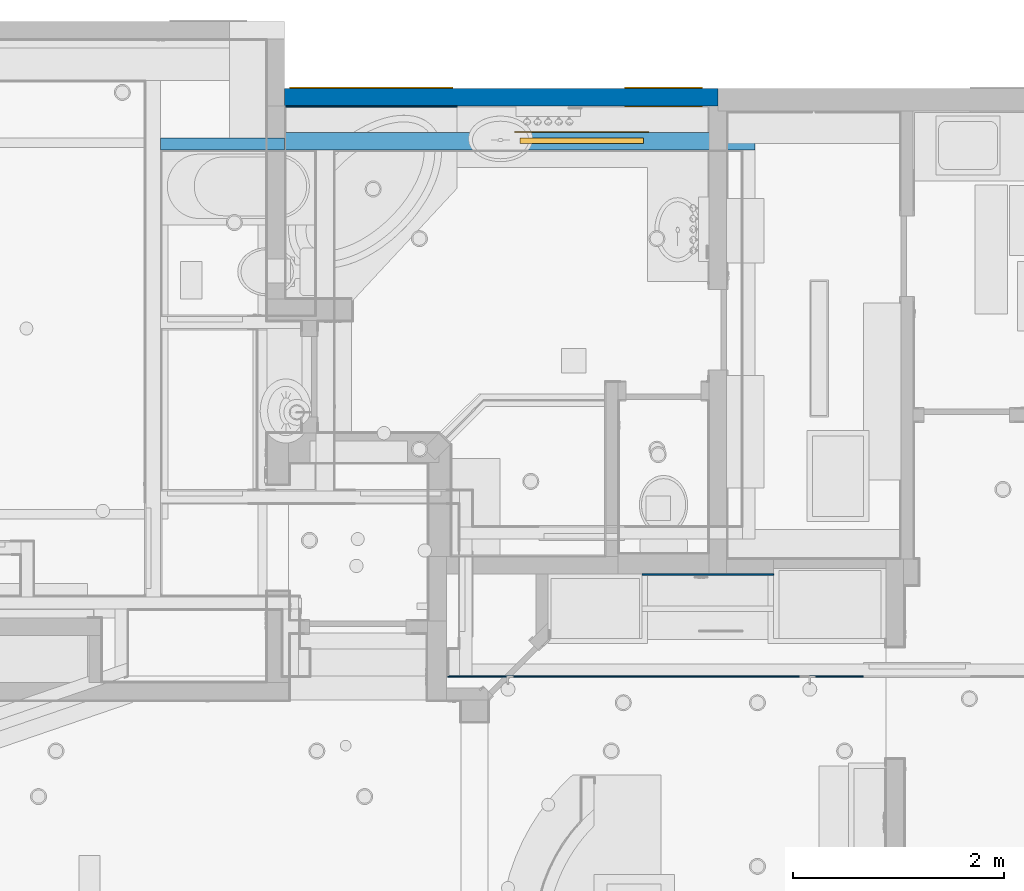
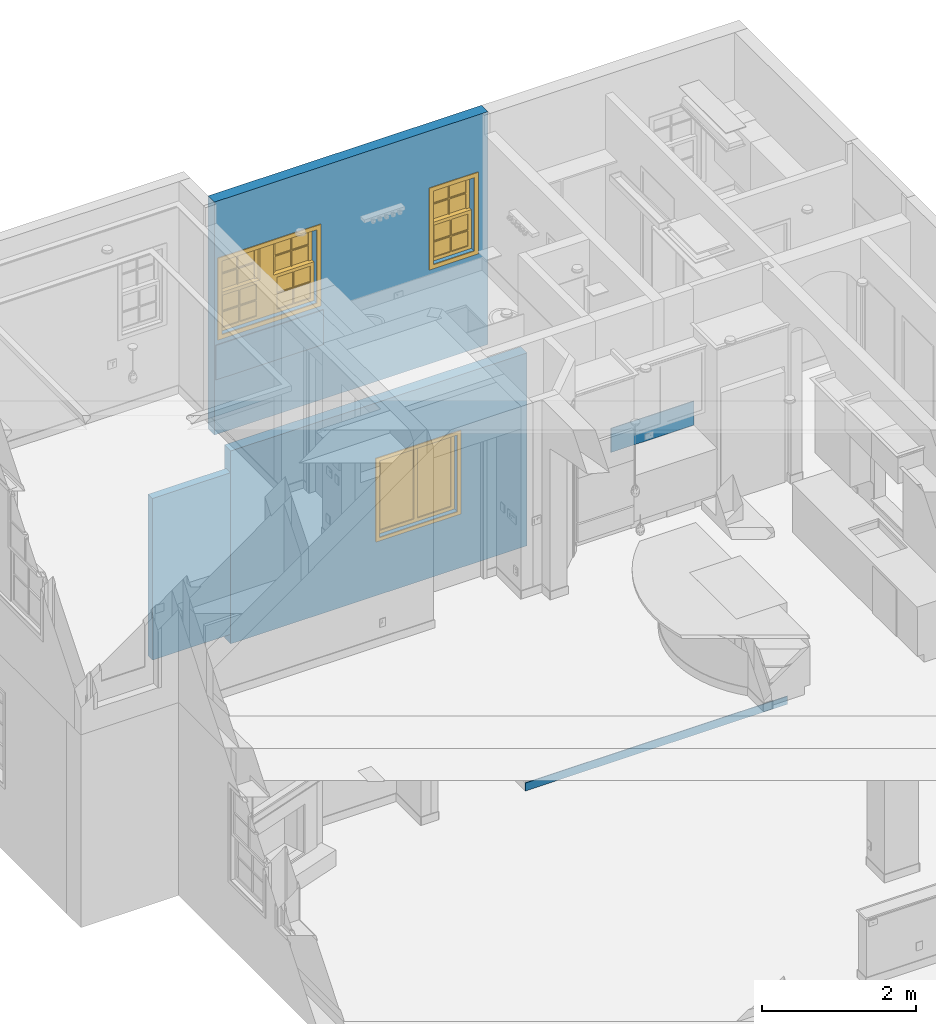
# One storey, part 12 of 81: 6 walls, 3 windows, 3 openings.
"""IFC2X3 building model written with IfcOpenShell, lengths in feet."""

from ifc_helpers import new_model, entity, si_unit, converted_unit, derived_unit, direction, frame, frame_2d, origin, origin_2d_with_axis, place, context, subcontext, project, spatial, polyline, rectangle, outline, extrude, source, transform, mapped, material, material_list, layer, layer_set, layer_usage, type_object, type_shapes, element, fill, save


model = new_model("IFC2X3")

# Units and contexts
model_context = context("Model", 3, precision=0.0001, world=origin(), true_north=direction((6.12303176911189e-17, 1.0)))
body_context = subcontext(model_context, "Body", "Model", "MODEL_VIEW")
ifc_project = project(units=[converted_unit("LENGTHUNIT", "FOOT", entity("IfcRatioMeasure", 0.3048), si_unit("LENGTHUNIT", "METRE"), dimensions=[1, 0, 0, 0, 0, 0, 0]), converted_unit("AREAUNIT", "SQUARE FOOT", entity("IfcRatioMeasure", 0.09290304), si_unit("AREAUNIT", "SQUARE_METRE"), dimensions=[2, 0, 0, 0, 0, 0, 0]), converted_unit("VOLUMEUNIT", "CUBIC FOOT", entity("IfcRatioMeasure", 0.028316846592), si_unit("VOLUMEUNIT", "CUBIC_METRE"), dimensions=[3, 0, 0, 0, 0, 0, 0]), converted_unit("PLANEANGLEUNIT", "DEGREE", entity("IfcRatioMeasure", 0.0174532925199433), si_unit("PLANEANGLEUNIT", "RADIAN"), dimensions=[0, 0, 0, 0, 0, 0, 0]), si_unit("MASSUNIT", "GRAM", prefix="KILO"), derived_unit("MASSDENSITYUNIT", [(si_unit("MASSUNIT", "GRAM", prefix="KILO"), 1), (si_unit("LENGTHUNIT", "METRE"), -3)]), derived_unit("MOMENTOFINERTIAUNIT", [(si_unit("LENGTHUNIT", "METRE"), 4)]), si_unit("TIMEUNIT", "SECOND"), si_unit("FREQUENCYUNIT", "HERTZ"), si_unit("THERMODYNAMICTEMPERATUREUNIT", "DEGREE_CELSIUS"), derived_unit("THERMALTRANSMITTANCEUNIT", [(si_unit("MASSUNIT", "GRAM", prefix="KILO"), 1), (si_unit("THERMODYNAMICTEMPERATUREUNIT", "KELVIN"), -1), (si_unit("TIMEUNIT", "SECOND"), -3)]), derived_unit("VOLUMETRICFLOWRATEUNIT", [(si_unit("LENGTHUNIT", "METRE"), 3), (si_unit("TIMEUNIT", "SECOND"), -1)]), si_unit("ELECTRICCURRENTUNIT", "AMPERE"), si_unit("ELECTRICVOLTAGEUNIT", "VOLT"), si_unit("POWERUNIT", "WATT"), si_unit("FORCEUNIT", "NEWTON"), si_unit("ILLUMINANCEUNIT", "LUX"), si_unit("LUMINOUSFLUXUNIT", "LUMEN"), si_unit("LUMINOUSINTENSITYUNIT", "CANDELA"), derived_unit("USERDEFINED", [(si_unit("MASSUNIT", "GRAM", prefix="KILO"), -1), (si_unit("LENGTHUNIT", "METRE"), -2), (si_unit("TIMEUNIT", "SECOND"), 3), (si_unit("LUMINOUSFLUXUNIT", "LUMEN"), 1)]), derived_unit("LINEARVELOCITYUNIT", [(si_unit("LENGTHUNIT", "METRE"), 1), (si_unit("TIMEUNIT", "SECOND"), -1)]), si_unit("PRESSUREUNIT", "PASCAL"), derived_unit("USERDEFINED", [(si_unit("LENGTHUNIT", "METRE"), -2), (si_unit("MASSUNIT", "GRAM", prefix="KILO"), 1), (si_unit("TIMEUNIT", "SECOND"), -2)]), derived_unit("LINEARFORCEUNIT", [(si_unit("MASSUNIT", "GRAM", prefix="KILO"), 1), (si_unit("LENGTHUNIT", "METRE"), 1), (si_unit("TIMEUNIT", "SECOND"), -2), (si_unit("LENGTHUNIT", "METRE"), -1)]), derived_unit("PLANARFORCEUNIT", [(si_unit("MASSUNIT", "GRAM", prefix="KILO"), 1), (si_unit("LENGTHUNIT", "METRE"), 1), (si_unit("TIMEUNIT", "SECOND"), -2), (si_unit("LENGTHUNIT", "METRE"), -2)])], contexts=[model_context])

# Site, building, storey
site_placement = place(None, origin())
site = spatial("IfcSite", under=ifc_project, at=site_placement, Name="Default", CompositionType="ELEMENT")
building_placement = place(site_placement, origin())
building = spatial("IfcBuilding", under=site, at=building_placement, CompositionType="ELEMENT")
storey_placement = place(building_placement, origin())
storey = spatial("IfcBuildingStorey", under=building, at=storey_placement, Name="First floor", CompositionType="ELEMENT", Elevation=0.0)

# Wall, openings, windows
ifc_material_1 = material(Name="Default New Material")
ifc_layer_1 = layer(ifc_material_1, 0.541666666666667)
ifc_layer_set_1 = layer_set([ifc_layer_1], Name="Basic Wall:Wall_6.5\"")
ifc_layer_usage_1 = layer_usage(ifc_layer_set_1, "AXIS2", "NEGATIVE", 0.270833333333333)
wall_type_1 = type_object("IfcWallType", Name="Basic Wall:Wall_6.5\"", PredefinedType="STANDARD", material=ifc_layer_set_1)
wall_1_placement = place(storey_placement, frame((-5.77083333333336, 47.7704881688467, 9.54166666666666)))
wall_1 = element("IfcWallStandardCase", 1, at=wall_1_placement, inside=storey, type_object=wall_type_1, material=ifc_layer_usage_1, Name="Basic Wall:Wall_6.5\"", ObjectType="Basic Wall:Wall_6.5\"", context=body_context, shape_type="SweptSolid", body=[
    extrude(rectangle(XDim=13.4583333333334, YDim=0.541666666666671, at=frame_2d((6.72916666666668, 4.44089209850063e-16), x_axis=(-1.0, 0.0))), origin(), (0.0, 0.0, 1.0), 12.125),
])
opening_1_placement = place(wall_1_placement, frame((10.7708333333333, -0.270833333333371, 5.125)))
opening_1 = element("IfcOpeningElement", 2, at=opening_1_placement, cuts=wall_1, Name="Window_4:2'-0\" X 3'-10\":1", ObjectType="Opening", context=body_context, shape_type="SweptSolid", body=[
    extrude(rectangle(XDim=3.83333333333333, YDim=2.0, at=frame_2d((1.91666666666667, 0.999999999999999), x_axis=(-1.0, 0.0))), frame((0.0, 0.0, 0.0), z_axis=(0.0, 1.0, 0.0), x_axis=(0.0, 0.0, 1.0)), (0.0, 0.0, 1.0), 0.541666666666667),
])
opening_2_placement = place(wall_1_placement, frame((0.354166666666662, -0.270833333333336, 5.125)))
opening_2 = element("IfcOpeningElement", 3, at=opening_2_placement, cuts=wall_1, Name="Window_2:4'-8\" X 3'-10\":1", ObjectType="Opening", context=body_context, shape_type="SweptSolid", body=[
    extrude(rectangle(XDim=3.83333333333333, YDim=4.66666666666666, at=frame_2d((1.91666666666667, 2.33333333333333), x_axis=(-1.0, 0.0))), frame((0.0, 0.0, 0.0), z_axis=(0.0, 1.0, 0.0), x_axis=(0.0, 0.0, 1.0)), (0.0, 0.0, 1.0), 0.541666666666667),
])
ifc_material_2 = material(Name="Glass")
ifc_material_list_1 = material_list([ifc_material_2, ifc_material_1])
ifc_material_3 = material(Name="Trim")
ifc_material_4 = material(Name="Sash")
ifc_material_list_2 = material_list([ifc_material_3, ifc_material_3, ifc_material_2, ifc_material_4])
window_style_1 = type_object("IfcWindowStyle", Name="Window_4:2'-0\" X 3'-10\"", ConstructionType="NOTDEFINED", OperationType="NOTDEFINED", ParameterTakesPrecedence=False, Sizeable=False, material=ifc_material_list_2)
shared_shape_1 = source(origin(), body_context, "Body", "SweptSolid", [
    extrude(rectangle(XDim=0.80859375, YDim=0.0435871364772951, at=origin_2d_with_axis()), frame((0.570963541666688, 0.459293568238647, 2.8515625)), (0.0, 0.0, 1.0), 0.815104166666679),
    extrude(rectangle(XDim=0.808593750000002, YDim=0.0435871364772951, at=frame_2d((5.55111512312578e-17, 0.0), x_axis=(1.0, 0.0))), frame((1.42903645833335, 0.459293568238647, 2.8515625)), (0.0, 0.0, 1.0), 0.815104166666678),
    extrude(rectangle(XDim=0.80859375, YDim=0.0435871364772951, at=origin_2d_with_axis()), frame((0.570963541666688, 0.459293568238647, 2.01041666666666)), (0.0, 0.0, 1.0), 0.791666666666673),
    extrude(rectangle(XDim=0.808593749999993, YDim=0.0435871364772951, at=origin_2d_with_axis()), frame((1.42903645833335, 0.459293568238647, 2.01041666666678)), (0.0, 0.0, 1.0), 0.791666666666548),
    extrude(outline(polyline([(-1.0, -0.994791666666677), (1.0, -0.994791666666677), (1.0, 0.994791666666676), (-1.0, 0.994791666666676), (-1.0, -0.994791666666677)]), holes=[polyline([(0.0247395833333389, -0.828125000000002), (0.0247395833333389, -0.0130208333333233), (0.833333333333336, -0.0130208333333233), (0.833333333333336, -0.828125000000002), (0.0247395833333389, -0.828125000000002)]), polyline([(0.0247395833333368, 0.828125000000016), (0.833333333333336, 0.828125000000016), (0.833333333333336, 0.0364583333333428), (0.0247395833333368, 0.0364583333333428), (0.0247395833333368, 0.828125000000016)]), polyline([(-0.833333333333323, -0.0130208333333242), (-0.0247395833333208, -0.0130208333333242), (-0.0247395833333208, -0.828125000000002), (-0.833333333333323, -0.828125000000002), (-0.833333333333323, -0.0130208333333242)]), polyline([(-0.833333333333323, 0.828124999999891), (-0.0247395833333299, 0.828124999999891), (-0.0247395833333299, 0.0364583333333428), (-0.833333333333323, 0.0364583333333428), (-0.833333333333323, 0.828124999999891)])]), frame((1.0, 0.541666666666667, 2.83854166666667), z_axis=(0.0, -1.0, 0.0), x_axis=(-1.0, 0.0, 0.0)), (0.0, 0.0, 1.0), 0.166666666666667),
    extrude(rectangle(XDim=0.808593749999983, YDim=0.0416666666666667, at=origin_2d_with_axis()), frame((1.42903645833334, 0.291666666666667, 0.166666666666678), z_axis=(0.0, 0.0, 1.0), x_axis=(-1.0, 0.0, 0.0)), (0.0, 0.0, 1.0), 0.791666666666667),
    extrude(rectangle(XDim=0.80859374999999, YDim=0.0416666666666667, at=origin_2d_with_axis()), frame((0.570963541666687, 0.291666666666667, 1.00781250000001), z_axis=(0.0, 0.0, 1.0), x_axis=(-1.0, 0.0, 0.0)), (0.0, 0.0, 1.0), 0.835937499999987),
    extrude(rectangle(XDim=0.80859374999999, YDim=0.0416666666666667, at=origin_2d_with_axis()), frame((0.570963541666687, 0.291666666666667, 0.166666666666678), z_axis=(0.0, 0.0, 1.0), x_axis=(-1.0, 0.0, 0.0)), (0.0, 0.0, 1.0), 0.791666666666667),
    extrude(rectangle(XDim=0.808593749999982, YDim=0.0416666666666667, at=origin_2d_with_axis()), frame((1.42903645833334, 0.291666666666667, 1.00781250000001), z_axis=(0.0, 0.0, 1.0), x_axis=(-1.0, 0.0, 0.0)), (0.0, 0.0, 1.0), 0.835937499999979),
    extrude(outline(polyline([(-1.0, -1.00520833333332), (1.0, -1.00520833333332), (1.0, 1.00520833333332), (-1.0, 1.00520833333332), (-1.0, -1.00520833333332)]), holes=[polyline([(-0.833333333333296, -0.0026041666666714), (-0.0247395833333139, -0.0026041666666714), (-0.0247395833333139, -0.83854166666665), (-0.833333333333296, -0.83854166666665), (-0.833333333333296, -0.0026041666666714)]), polyline([(0.0247395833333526, 0.838541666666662), (0.833333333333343, 0.838541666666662), (0.833333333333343, 0.0468749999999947), (0.0247395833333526, 0.0468749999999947), (0.0247395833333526, 0.838541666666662)]), polyline([(-0.833333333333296, 0.838541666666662), (-0.0247395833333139, 0.838541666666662), (-0.0247395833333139, 0.0468749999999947), (-0.833333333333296, 0.0468749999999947), (-0.833333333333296, 0.838541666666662)]), polyline([(0.0247395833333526, -0.83854166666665), (0.0247395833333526, -0.00260416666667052), (0.833333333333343, -0.00260416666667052), (0.833333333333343, -0.83854166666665), (0.0247395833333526, -0.83854166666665)])]), frame((1.0, 0.375, 1.00520833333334), z_axis=(0.0, -1.0, 0.0), x_axis=(-1.0, 0.0, 0.0)), (0.0, 0.0, 1.0), 0.166666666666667),
    extrude(outline(polyline([(-1.20833333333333, -2.12500000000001), (1.20833333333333, -2.12500000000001), (1.20833333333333, 2.12500000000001), (-1.20833333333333, 2.12500000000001), (-1.20833333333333, -2.12500000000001)]), holes=[polyline([(-1.0, -1.91666666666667), (-1.0, 1.91666666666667), (1.0, 1.91666666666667), (1.0, -1.91666666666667), (-1.0, -1.91666666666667)])]), frame((1.0, 0.0, 1.91666666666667), z_axis=(0.0, -1.0, 0.0), x_axis=(1.0, 0.0, 0.0)), (0.0, 0.0, 1.0), 0.0416666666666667),
    extrude(outline(polyline([(-1.20833333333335, -2.125), (1.20833333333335, -2.125), (1.20833333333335, 2.125), (-1.20833333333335, 2.125), (-1.20833333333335, -2.125)]), holes=[polyline([(-1.0, -1.91666666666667), (-1.0, 1.91666666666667), (1.0, 1.91666666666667), (1.0, -1.91666666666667), (-1.0, -1.91666666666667)])]), frame((1.0, 0.583333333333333, 1.91666666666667), z_axis=(0.0, -1.0, 0.0), x_axis=(1.0, 0.0, 0.0)), (0.0, 0.0, 1.0), 0.0416666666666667),
])
type_shapes(window_style_1, [shared_shape_1])
window_1_placement = place(opening_1_placement, origin())
window_1 = element("IfcWindow", 4, at=window_1_placement, inside=storey, type_object=window_style_1, material=ifc_material_list_1, Name="Window_4:2'-0\" X 3'-10\"", ObjectType="Window_4:2'-0\" X 3'-10\"", OverallHeight=3.83333333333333, OverallWidth=2.0, context=body_context, shape_type="MappedRepresentation", body=[
    mapped(shared_shape_1, transform((0.0, 0.0, 0.0), scale=1.0)),
])
fill(opening_1, window_1)
ifc_material_list_3 = material_list([ifc_material_2, ifc_material_1])
ifc_material_list_4 = material_list([ifc_material_1, ifc_material_4, ifc_material_2, ifc_material_1])
window_style_2 = type_object("IfcWindowStyle", Name="Window_2:4'-8\" X 3'-10\"", ConstructionType="NOTDEFINED", OperationType="NOTDEFINED", ParameterTakesPrecedence=False, Sizeable=False, material=ifc_material_list_4)
shared_shape_2 = source(origin(), body_context, "Body", "SweptSolid", [
    extrude(rectangle(XDim=0.812499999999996, YDim=0.0435871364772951, at=frame_2d((-1.11022302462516e-16, 0.0), x_axis=(1.0, 0.0))), frame((4.09375000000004, 0.459293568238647, 2.85937499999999)), (0.0, 0.0, 1.0), 0.807291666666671),
    extrude(rectangle(XDim=0.812499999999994, YDim=0.0435871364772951, at=frame_2d((1.11022302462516e-16, 0.0), x_axis=(1.0, 0.0))), frame((4.09375000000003, 0.459293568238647, 2.01041666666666)), (0.0, 0.0, 1.0), 0.807291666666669),
    extrude(rectangle(XDim=0.812499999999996, YDim=0.0435871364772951, at=frame_2d((1.11022302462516e-16, 0.0), x_axis=(1.0, 0.0))), frame((0.572916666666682, 0.459293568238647, 2.859375)), (0.0, 0.0, 1.0), 0.80729166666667),
    extrude(rectangle(XDim=0.812499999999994, YDim=0.0435871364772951, at=frame_2d((-1.11022302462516e-16, 0.0), x_axis=(1.0, 0.0))), frame((0.572916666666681, 0.459293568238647, 2.01041666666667)), (0.0, 0.0, 1.0), 0.807291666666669),
    extrude(rectangle(XDim=0.812499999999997, YDim=0.0435871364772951, at=origin_2d_with_axis()), frame((1.42708333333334, 0.459293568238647, 2.01041666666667)), (0.0, 0.0, 1.0), 0.807291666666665),
    extrude(rectangle(XDim=0.812499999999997, YDim=0.0435871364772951, at=origin_2d_with_axis()), frame((1.42708333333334, 0.459293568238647, 2.859375)), (0.0, 0.0, 1.0), 0.807291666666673),
    extrude(rectangle(XDim=0.812499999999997, YDim=0.0435871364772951, at=origin_2d_with_axis()), frame((3.23958333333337, 0.459293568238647, 2.01041666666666)), (0.0, 0.0, 1.0), 0.807291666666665),
    extrude(rectangle(XDim=0.812499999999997, YDim=0.0435871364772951, at=origin_2d_with_axis()), frame((3.23958333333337, 0.459293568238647, 2.85937499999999)), (0.0, 0.0, 1.0), 0.807291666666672),
    extrude(outline(polyline([(-0.994791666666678, -1.0), (0.994791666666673, -1.0), (0.994791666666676, 1.0), (-0.994791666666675, 1.0), (-0.994791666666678, -1.0)]), holes=[polyline([(-0.828124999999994, 0.0208333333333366), (-0.828124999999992, 0.833333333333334), (-0.0208333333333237, 0.833333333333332), (-0.0208333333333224, 0.0208333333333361), (-0.828124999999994, 0.0208333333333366)]), polyline([(0.828125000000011, 0.0208333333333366), (0.0208333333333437, 0.0208333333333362), (0.0208333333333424, 0.833333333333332), (0.828125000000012, 0.833333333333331), (0.828125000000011, 0.0208333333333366)]), polyline([(0.020833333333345, -0.833333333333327), (0.0208333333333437, -0.0208333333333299), (0.828125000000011, -0.0208333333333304), (0.828125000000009, -0.833333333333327), (0.020833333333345, -0.833333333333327)]), polyline([(-0.0208333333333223, -0.02083333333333), (-0.0208333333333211, -0.833333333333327), (-0.828124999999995, -0.833333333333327), (-0.828124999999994, -0.0208333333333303), (-0.0208333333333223, -0.02083333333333)])]), frame((3.6666666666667, 0.541666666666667, 2.83854166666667), z_axis=(0.0, -1.0, 0.0), x_axis=(0.0, 0.0, -1.0)), (0.0, 0.0, 1.0), 0.166666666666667),
    extrude(outline(polyline([(-1.0, -0.994791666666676), (1.0, -0.994791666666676), (1.0, 0.994791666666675), (-1.0, 0.994791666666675), (-1.0, -0.994791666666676)]), holes=[polyline([(0.0208333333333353, -0.828124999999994), (0.0208333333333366, -0.0208333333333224), (0.833333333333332, -0.020833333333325), (0.833333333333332, -0.828124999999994), (0.0208333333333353, -0.828124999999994)]), polyline([(0.0208333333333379, 0.828125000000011), (0.833333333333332, 0.828125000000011), (0.833333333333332, 0.020833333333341), (0.0208333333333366, 0.0208333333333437), (0.0208333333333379, 0.828125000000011)]), polyline([(-0.833333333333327, 0.0208333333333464), (-0.833333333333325, 0.828125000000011), (-0.0208333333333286, 0.828125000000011), (-0.0208333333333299, 0.0208333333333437), (-0.833333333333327, 0.0208333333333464)]), polyline([(-0.0208333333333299, -0.0208333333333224), (-0.0208333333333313, -0.828124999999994), (-0.833333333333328, -0.828124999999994), (-0.833333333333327, -0.0208333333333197), (-0.0208333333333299, -0.0208333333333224)])]), frame((1.0, 0.541666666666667, 2.83854166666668), z_axis=(0.0, -1.0, 0.0), x_axis=(-1.0, 0.0, 0.0)), (0.0, 0.0, 1.0), 0.166666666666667),
    extrude(rectangle(XDim=0.666666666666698, YDim=0.333333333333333, at=origin_2d_with_axis()), frame((2.33333333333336, 0.375, 0.0), z_axis=(0.0, 0.0, 1.0), x_axis=(-1.0, 0.0, 0.0)), (0.0, 0.0, 1.0), 3.83333333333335),
    extrude(rectangle(XDim=0.812499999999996, YDim=0.0416666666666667, at=origin_2d_with_axis()), frame((4.09375000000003, 0.291666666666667, 1.015625), z_axis=(0.0, 0.0, 1.0), x_axis=(-1.0, 0.0, 0.0)), (0.0, 0.0, 1.0), 0.828124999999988),
    extrude(rectangle(XDim=0.812499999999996, YDim=0.0416666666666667, at=frame_2d((1.11022302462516e-16, 0.0), x_axis=(1.0, 0.0))), frame((0.572916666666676, 0.291666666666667, 1.01562500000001), z_axis=(0.0, 0.0, 1.0), x_axis=(-1.0, 0.0, 0.0)), (0.0, 0.0, 1.0), 0.828124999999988),
    extrude(rectangle(XDim=0.812499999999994, YDim=0.0416666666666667, at=frame_2d((-1.11022302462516e-16, 0.0), x_axis=(1.0, 0.0))), frame((0.572916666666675, 0.291666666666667, 0.166666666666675), z_axis=(0.0, 0.0, 1.0), x_axis=(-1.0, 0.0, 0.0)), (0.0, 0.0, 1.0), 0.807291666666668),
    extrude(rectangle(XDim=0.812499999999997, YDim=0.0416666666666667, at=origin_2d_with_axis()), frame((1.42708333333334, 0.291666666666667, 0.166666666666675), z_axis=(0.0, 0.0, 1.0), x_axis=(-1.0, 0.0, 0.0)), (0.0, 0.0, 1.0), 0.807291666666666),
    extrude(rectangle(XDim=0.812499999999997, YDim=0.0416666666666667, at=origin_2d_with_axis()), frame((1.42708333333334, 0.291666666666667, 1.01562500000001), z_axis=(0.0, 0.0, 1.0), x_axis=(-1.0, 0.0, 0.0)), (0.0, 0.0, 1.0), 0.82812499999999),
    extrude(rectangle(XDim=0.812499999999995, YDim=0.0416666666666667, at=origin_2d_with_axis()), frame((4.09375000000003, 0.291666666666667, 0.166666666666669), z_axis=(0.0, 0.0, 1.0), x_axis=(-1.0, 0.0, 0.0)), (0.0, 0.0, 1.0), 0.807291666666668),
    extrude(rectangle(XDim=0.812499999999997, YDim=0.0416666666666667, at=origin_2d_with_axis()), frame((3.23958333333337, 0.291666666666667, 0.166666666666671), z_axis=(0.0, 0.0, 1.0), x_axis=(-1.0, 0.0, 0.0)), (0.0, 0.0, 1.0), 0.807291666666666),
    extrude(rectangle(XDim=0.812499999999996, YDim=0.0416666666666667, at=origin_2d_with_axis()), frame((3.23958333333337, 0.291666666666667, 1.015625), z_axis=(0.0, 0.0, 1.0), x_axis=(-1.0, 0.0, 0.0)), (0.0, 0.0, 1.0), 0.828124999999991),
    extrude(outline(polyline([(-1.00520833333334, -1.0), (1.00520833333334, -1.0), (1.00520833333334, 1.0), (-1.00520833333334, 1.0), (-1.00520833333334, -1.0)]), holes=[polyline([(0.838541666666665, -0.0208333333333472), (0.838541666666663, -0.833333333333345), (0.0104166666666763, -0.833333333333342), (0.0104166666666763, -0.0208333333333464), (0.838541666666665, -0.0208333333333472)]), polyline([(0.0104166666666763, 0.0208333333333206), (0.0104166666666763, 0.833333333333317), (0.838541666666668, 0.833333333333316), (0.838541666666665, 0.0208333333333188), (0.0104166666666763, 0.0208333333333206)]), polyline([(-0.838541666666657, -0.0208333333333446), (-0.0312499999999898, -0.0208333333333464), (-0.0312499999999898, -0.833333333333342), (-0.838541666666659, -0.833333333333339), (-0.838541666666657, -0.0208333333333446)]), polyline([(-0.0312499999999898, 0.833333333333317), (-0.0312499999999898, 0.0208333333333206), (-0.838541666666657, 0.0208333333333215), (-0.838541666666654, 0.833333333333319), (-0.0312499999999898, 0.833333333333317)])]), frame((3.66666666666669, 0.375, 1.00520833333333), z_axis=(0.0, -1.0, 0.0), x_axis=(0.0, 0.0, 1.0)), (0.0, 0.0, 1.0), 0.166666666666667),
    extrude(outline(polyline([(-1.0, -1.00520833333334), (1.0, -1.00520833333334), (1.0, 1.00520833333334), (-1.0, 1.00520833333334), (-1.0, -1.00520833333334)]), holes=[polyline([(-0.0208333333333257, -0.0104166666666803), (-0.020833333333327, -0.838541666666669), (-0.833333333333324, -0.838541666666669), (-0.833333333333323, -0.0104166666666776), (-0.0208333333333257, -0.0104166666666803)]), polyline([(0.0208333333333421, 0.838541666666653), (0.833333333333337, 0.838541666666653), (0.833333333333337, 0.0312499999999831), (0.0208333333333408, 0.0312499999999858), (0.0208333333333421, 0.838541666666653)]), polyline([(-0.833333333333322, 0.0312499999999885), (-0.833333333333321, 0.838541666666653), (-0.0208333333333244, 0.838541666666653), (-0.0208333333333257, 0.0312499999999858), (-0.833333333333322, 0.0312499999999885)]), polyline([(0.0208333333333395, -0.838541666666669), (0.0208333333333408, -0.0104166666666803), (0.833333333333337, -0.010416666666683), (0.833333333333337, -0.838541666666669), (0.0208333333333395, -0.838541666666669)])]), frame((1.0, 0.375, 1.00520833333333), z_axis=(0.0, -1.0, 0.0), x_axis=(-1.0, 0.0, 0.0)), (0.0, 0.0, 1.0), 0.166666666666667),
    extrude(outline(polyline([(-2.54166666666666, -2.125), (2.54166666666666, -2.125), (2.54166666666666, 2.125), (-2.54166666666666, 2.125), (-2.54166666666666, -2.125)]), holes=[polyline([(-2.33333333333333, -1.91666666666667), (-2.33333333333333, 1.91666666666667), (2.33333333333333, 1.91666666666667), (2.33333333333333, -1.91666666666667), (-2.33333333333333, -1.91666666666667)])]), frame((2.33333333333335, 0.0, 1.91666666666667), z_axis=(0.0, -1.0, 0.0), x_axis=(1.0, 0.0, 0.0)), (0.0, 0.0, 1.0), 0.0416666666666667),
    extrude(outline(polyline([(-2.54166666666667, -2.125), (2.54166666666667, -2.125), (2.54166666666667, 2.125), (-2.54166666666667, 2.125), (-2.54166666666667, -2.125)]), holes=[polyline([(-2.33333333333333, -1.91666666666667), (-2.33333333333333, 1.91666666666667), (2.33333333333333, 1.91666666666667), (2.33333333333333, -1.91666666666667), (-2.33333333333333, -1.91666666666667)])]), frame((2.33333333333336, 0.583333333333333, 1.91666666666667), z_axis=(0.0, -1.0, 0.0), x_axis=(1.0, 0.0, 0.0)), (0.0, 0.0, 1.0), 0.0416666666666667),
])
type_shapes(window_style_2, [shared_shape_2])
window_2_placement = place(opening_2_placement, origin())
window_2 = element("IfcWindow", 5, at=window_2_placement, inside=storey, type_object=window_style_2, material=ifc_material_list_3, Name="Window_2:4'-8\" X 3'-10\"", ObjectType="Window_2:4'-8\" X 3'-10\"", OverallHeight=3.83333333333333, OverallWidth=4.66666666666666, context=body_context, shape_type="MappedRepresentation", body=[
    mapped(shared_shape_2, transform((0.0, 0.0, 0.0), scale=1.0)),
])
fill(opening_2, window_2)

# Wall, opening, window
ifc_layer_usage_2 = layer_usage(ifc_layer_set_1, "AXIS2", "POSITIVE", -0.270833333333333)
wall_2_placement = place(storey_placement, frame((8.83333333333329, 46.3958333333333, -0.5), z_axis=(0.0, 0.0, 1.0), x_axis=(-1.0, 0.0, 0.0)))
wall_2 = element("IfcWallStandardCase", 6, at=wall_2_placement, inside=storey, type_object=wall_type_1, material=ifc_layer_usage_2, Name="Basic Wall:Wall_6.5\"", ObjectType="Basic Wall:Wall_6.5\"", context=body_context, shape_type="SweptSolid", body=[
    extrude(rectangle(XDim=14.6041666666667, YDim=0.541666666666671, at=frame_2d((7.30208333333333, 0.0), x_axis=(-1.0, 0.0))), origin(), (0.0, 0.0, 1.0), 10.0416666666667),
])
opening_3_placement = place(wall_2_placement, frame((7.29166666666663, 0.270833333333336, 3.0)))
opening_3 = element("IfcOpeningElement", 7, at=opening_3_placement, cuts=wall_2, Name="Window_6:3'-10\" X 4'-0\":1", ObjectType="Opening", context=body_context, shape_type="SweptSolid", body=[
    extrude(rectangle(XDim=3.99999999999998, YDim=3.83333333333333, at=frame_2d((1.99999999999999, 1.91666666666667), x_axis=(-1.0, 0.0))), frame((0.0, 0.0, 0.0), z_axis=(0.0, -1.0, 0.0), x_axis=(0.0, 0.0, 1.0)), (0.0, 0.0, 1.0), 0.541666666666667),
])
ifc_material_list_5 = material_list([ifc_material_2, ifc_material_1])
ifc_material_list_6 = material_list([ifc_material_1, ifc_material_2, ifc_material_1])
window_style_3 = type_object("IfcWindowStyle", Name="Window_6:3'-10\" X 4'-0\"", ConstructionType="NOTDEFINED", OperationType="NOTDEFINED", ParameterTakesPrecedence=False, Sizeable=False, material=ifc_material_list_6)
shared_shape_3 = source(origin(), body_context, "Body", "SweptSolid", [
    extrude(rectangle(XDim=0.0416666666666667, YDim=1.66666666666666, at=origin_2d_with_axis()), frame((1.0, 0.291666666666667, 0.166666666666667), z_axis=(0.0, 0.0, 1.0), x_axis=(0.0, 1.0, 0.0)), (0.0, 0.0, 1.0), 3.66666666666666),
    extrude(rectangle(XDim=0.0416666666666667, YDim=1.66666666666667, at=origin_2d_with_axis()), frame((2.83333333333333, 0.291666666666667, 0.166666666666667), z_axis=(0.0, 0.0, 1.0), x_axis=(0.0, 1.0, 0.0)), (0.0, 0.0, 1.0), 3.66666666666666),
    extrude(outline(polyline([(-1.91666666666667, -2.0), (1.91666666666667, -2.0), (1.91666666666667, 2.0), (-1.91666666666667, 2.0), (-1.91666666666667, -2.0)]), holes=[polyline([(-1.75, 1.83333333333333), (-0.0833333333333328, 1.83333333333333), (-0.0833333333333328, -1.83333333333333), (-1.75, -1.83333333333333), (-1.75, 1.83333333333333)]), polyline([(0.0833333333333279, -1.83333333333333), (0.0833333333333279, 1.83333333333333), (1.75, 1.83333333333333), (1.75, -1.83333333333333), (0.0833333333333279, -1.83333333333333)])]), frame((1.91666666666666, 0.208333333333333, 2.0), z_axis=(0.0, 1.0, 0.0), x_axis=(1.0, 0.0, 0.0)), (0.0, 0.0, 1.0), 0.166666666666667),
    extrude(outline(polyline([(-2.08333333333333, -2.16666666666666), (2.08333333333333, -2.16666666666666), (2.08333333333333, 2.16666666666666), (-2.08333333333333, 2.16666666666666), (-2.08333333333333, -2.16666666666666)]), holes=[polyline([(-1.91666666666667, -2.0), (-1.91666666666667, 2.0), (1.91666666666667, 2.0), (1.91666666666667, -2.0), (-1.91666666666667, -2.0)])]), frame((1.91666666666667, 0.541666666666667, 2.0), z_axis=(0.0, 1.0, 0.0), x_axis=(1.0, 0.0, 0.0)), (0.0, 0.0, 1.0), 0.0416666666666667),
    extrude(outline(polyline([(-2.08333333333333, -2.16666666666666), (2.08333333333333, -2.16666666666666), (2.08333333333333, 2.16666666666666), (-2.08333333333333, 2.16666666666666), (-2.08333333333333, -2.16666666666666)]), holes=[polyline([(1.91666666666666, 2.0), (1.91666666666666, -2.0), (-1.91666666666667, -2.0), (-1.91666666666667, 2.0), (1.91666666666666, 2.0)])]), frame((1.91666666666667, -0.0416666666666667, 2.0), z_axis=(0.0, 1.0, 0.0), x_axis=(1.0, 0.0, 0.0)), (0.0, 0.0, 1.0), 0.0416666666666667),
])
type_shapes(window_style_3, [shared_shape_3])
window_3_placement = place(opening_3_placement, frame((0.0, 0.0, 0.0), z_axis=(0.0, 0.0, 1.0), x_axis=(-1.0, 0.0, 0.0)))
window_3 = element("IfcWindow", 8, at=window_3_placement, inside=storey, type_object=window_style_3, material=ifc_material_list_5, Name="Window_6:3'-10\" X 4'-0\"", ObjectType="Window_6:3'-10\" X 4'-0\"", OverallHeight=3.99999999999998, OverallWidth=3.83333333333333, context=body_context, shape_type="MappedRepresentation", body=[
    mapped(shared_shape_3, transform((0.0, 0.0, 0.0), scale=1.0)),
])
fill(opening_3, window_3)

# Walls
ifc_layer_2 = layer(ifc_material_1, 0.375)
ifc_layer_set_2 = layer_set([ifc_layer_2], Name="Basic Wall:Wall_4.5\"")
ifc_layer_usage_3 = layer_usage(ifc_layer_set_2, "AXIS2", "NEGATIVE", 0.1875)
wall_type_2 = type_object("IfcWallType", Name="Basic Wall:Wall_4.5\"", PredefinedType="STANDARD", material=ifc_layer_set_2)
wall_3_placement = place(storey_placement, frame((-5.77083333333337, 46.3125, 0.0), z_axis=(0.0, 0.0, 1.0), x_axis=(-1.0, 0.0, 0.0)))
element("IfcWallStandardCase", 9, at=wall_3_placement, inside=storey, type_object=wall_type_2, material=ifc_layer_usage_3, Name="Basic Wall:Wall_4.5\"", ObjectType="Basic Wall:Wall_4.5\"", context=body_context, shape_type="SweptSolid", body=[
    extrude(rectangle(XDim=3.85416666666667, YDim=0.375, at=frame_2d((1.92708333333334, 0.0), x_axis=(-1.0, 0.0))), origin(), (0.0, 0.0, 1.0), 8.41666666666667),
])
ifc_layer_3 = layer(ifc_material_1, 0.0416666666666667)
ifc_layer_set_3 = layer_set([ifc_layer_3], Name="Basic Wall:Wall Border_T1")
ifc_layer_usage_4 = layer_usage(ifc_layer_set_3, "AXIS2", "POSITIVE", -0.0208333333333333)
wall_type_3 = type_object("IfcWallType", Name="Basic Wall:Wall Border_T1", PredefinedType="STANDARD", material=ifc_layer_set_3)
wall_4_placement = place(storey_placement, frame((-0.708333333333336, 29.7708333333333, 0.0)))
element("IfcWallStandardCase", 10, at=wall_4_placement, inside=storey, type_object=wall_type_3, material=ifc_layer_usage_4, Name="Basic Wall:Wall Border_T1", ObjectType="Basic Wall:Wall Border_T1", context=body_context, shape_type="SweptSolid", body=[
    extrude(rectangle(XDim=12.9166666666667, YDim=0.0416666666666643, at=frame_2d((6.45833333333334, 6.93889390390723e-17), x_axis=(-1.0, 0.0))), origin(), (0.0, 0.0, 1.0), 0.416666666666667),
])
ifc_layer_usage_5 = layer_usage(ifc_layer_set_3, "AXIS2", "NEGATIVE", 0.0208333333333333)
wall_5_placement = place(storey_placement, frame((-0.41666666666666, 47.47882150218, 12.4166666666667), z_axis=(0.0, 0.0, 1.0), x_axis=(-1.0, 0.0, 0.0)))
element("IfcWallStandardCase", 11, at=wall_5_placement, inside=storey, type_object=wall_type_3, material=ifc_layer_usage_5, Name="Basic Wall:Wall Border_T1", ObjectType="Basic Wall:Wall Border_T1", context=body_context, shape_type="SweptSolid", body=[
    extrude(rectangle(XDim=5.31249999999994, YDim=0.0416666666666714, at=frame_2d((2.65624999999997, 0.0), x_axis=(-1.0, 0.0))), origin(), (0.0, 0.0, 1.0), 1.79166666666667),
])
ifc_layer_usage_6 = layer_usage(ifc_layer_set_3, "AXIS2", "NEGATIVE", 0.0208333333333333)
wall_6_placement = place(storey_placement, frame((5.3329961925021, 32.9375, 13.5833333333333)))
element("IfcWallStandardCase", 12, at=wall_6_placement, inside=storey, type_object=wall_type_3, material=ifc_layer_usage_6, Name="Basic Wall:Wall Border_T1", ObjectType="Basic Wall:Wall Border_T1", context=body_context, shape_type="SweptSolid", body=[
    extrude(rectangle(XDim=4.08367047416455, YDim=0.0416666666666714, at=frame_2d((2.04183523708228, 0.0), x_axis=(-1.0, 0.0))), origin(), (0.0, 0.0, 1.0), 1.25),
])

save(model, "model.ifc")
